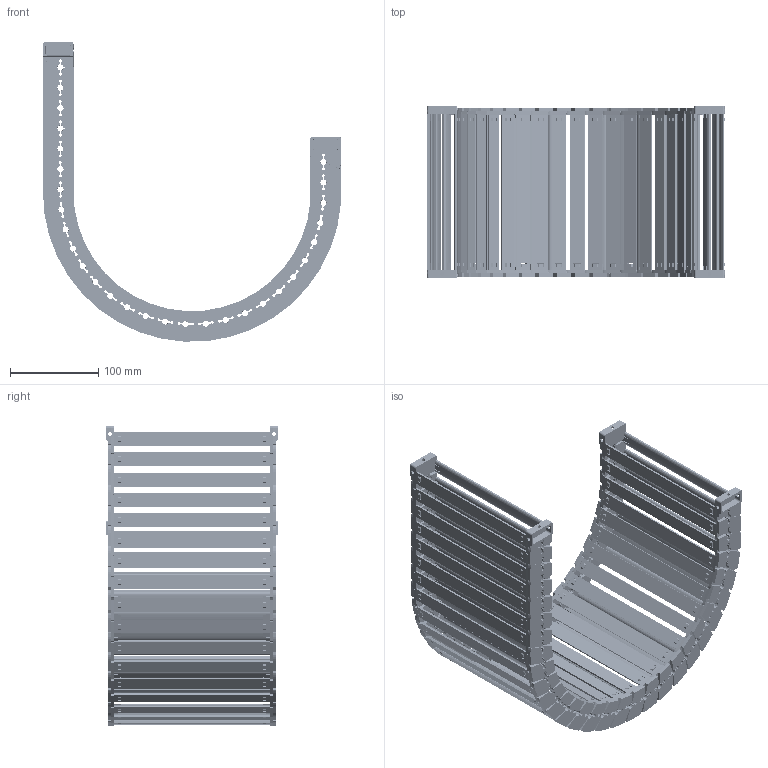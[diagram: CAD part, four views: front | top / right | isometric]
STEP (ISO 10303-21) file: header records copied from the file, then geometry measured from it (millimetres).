
FILE_DESCRIPTION((''),'2;1');
FILE_NAME('JY-28X175-R150_ASM','2026-05-04T14:13:42',('admin'),(''),'CREO PARAMETRIC BY PTC INC, 2021023','CREO PARAMETRIC BY PTC INC, 2021023','');
FILE_SCHEMA(('CONFIG_CONTROL_DESIGN'));
Length unit declared in the file: millimetre
Products named in the file (11): 28XL-L; 25-35XL-YP; 28XL-R; ASM0001_ASM; 28-LTT-A-L; 28-LTT-A-R; 28XL-LTT-A_ASM; 28-LTT-B-L; 28-LTT-B-R; 28XL-LTT-B_ASM; JY-28X175-R150_ASM
Assembly tree (42 placements, depth 3):
  JY-28X175-R150_ASM
    ASM0001_ASM  x28
      28XL-L
      25-35XL-YP
      28XL-R
    28XL-LTT-A_ASM
      28-LTT-A-L
      25-35XL-YP  x2
      28-LTT-A-R
    28XL-LTT-B_ASM
      28-LTT-B-L
      25-35XL-YP  x2
      28-LTT-B-R
Bounding box: 337.23 x 194.5 x 338.94 mm (x, y, z)
Volume: 848254.7 mm3; surface area: 604324 mm2
Topology: 120 solids, 120 shells, 9750 faces, 28988 edges, 19358 vertices
Faces by surface type: plane 6392, cone 1766, cylinder 1394, bspline 198
Entity records: 29175 total; most frequent: CARTESIAN_POINT 9500, ORIENTED_EDGE 4352, DIRECTION 3675, EDGE_CURVE 2176, VERTEX_POINT 1454, VECTOR 1365, LINE 1365, AXIS2_PLACEMENT_3D 1155
